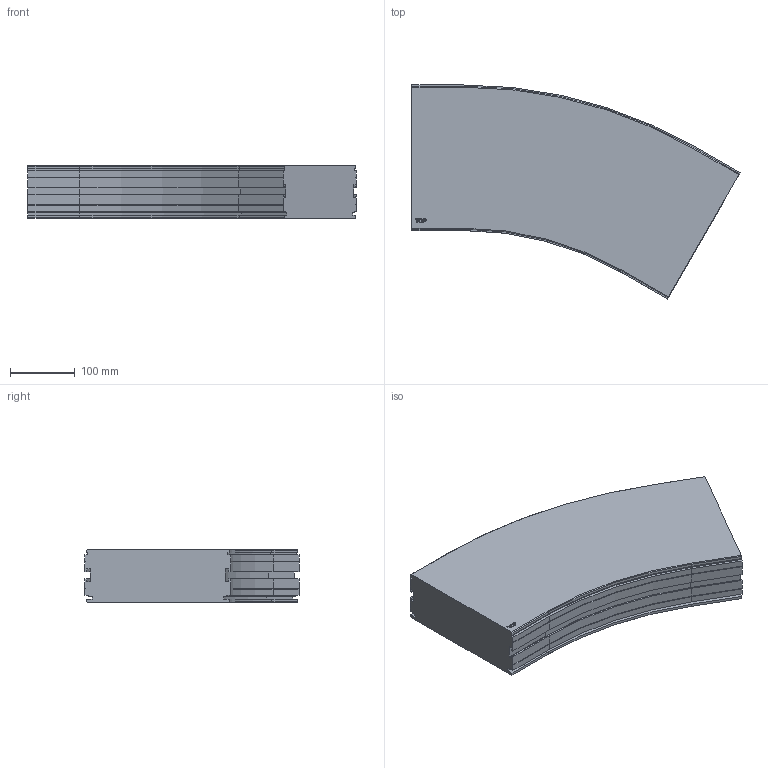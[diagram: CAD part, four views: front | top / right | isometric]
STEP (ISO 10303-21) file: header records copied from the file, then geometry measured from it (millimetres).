
FILE_DESCRIPTION((''),'2;1');
FILE_NAME('C:\Vault Klient\Projekt\Koncept konstruktion\Serie 220 Balk\220-5340.stp','2009-11-27T14:53:48',('Mathias'),(''),'Autodesk Inventor 2010','Autodesk Inventor 2010','');
FILE_SCHEMA(('AUTOMOTIVE_DESIGN { 1 0 10303 214 1 1 1 1 }'));
Length unit declared in the file: millimetre
Products named in the file (1): 220-5340
Bounding box: 505.28 x 329.38 x 81.5 mm (x, y, z)
Volume: 8438978.7 mm3; surface area: 377772.7 mm2
Topology: 1 solids, 1 shells, 165 faces, 442 edges, 284 vertices
Faces by surface type: plane 115, cylinder 24, bspline 14, cone 12
Entity records: 5279 total; most frequent: CARTESIAN_POINT 1134, ORIENTED_EDGE 884, DIRECTION 774, EDGE_CURVE 442, VECTOR 358, LINE 358, VERTEX_POINT 284, AXIS2_PLACEMENT_3D 208
